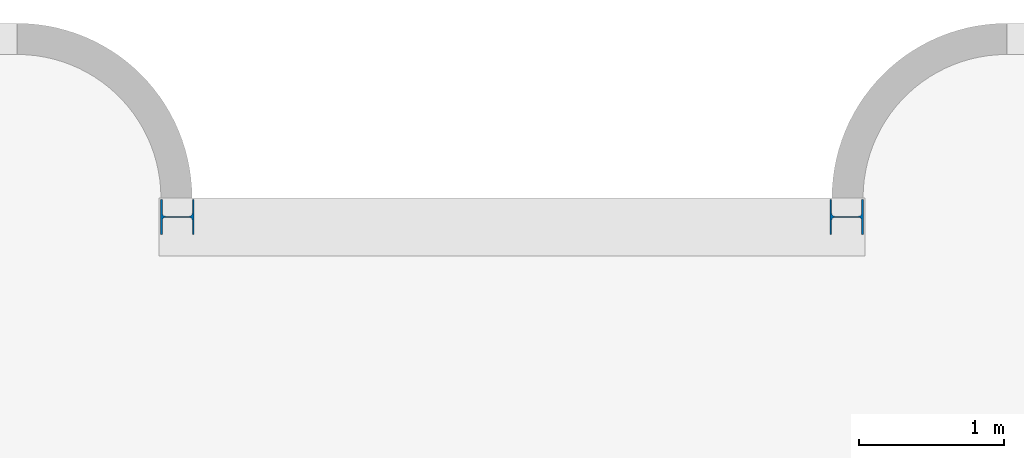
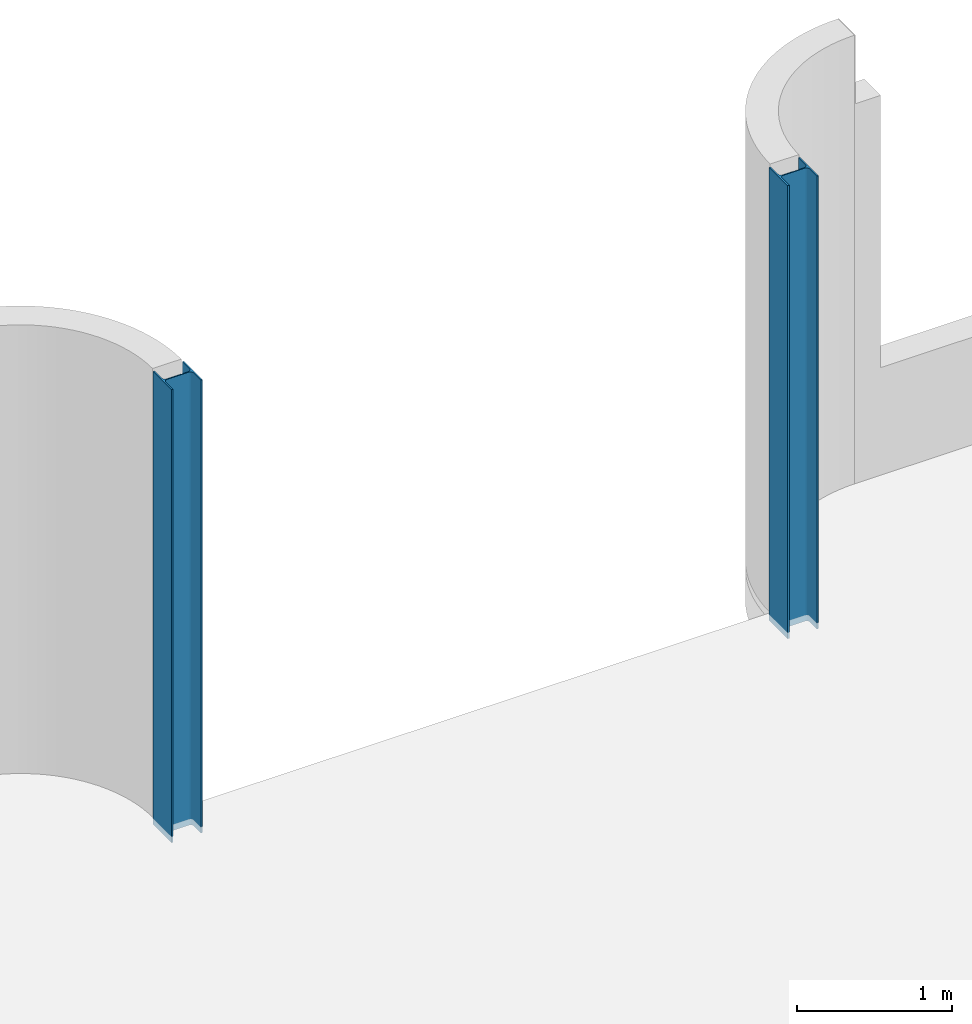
# One storey, part 11 of 25: 2 columns.
"""IFC2X3 building model written with IfcOpenShell, lengths in millimetres."""

import ifcopenshell
import ifcopenshell.guid

model = None  # the IFC model being written
_history = None  # IfcOwnerHistory: only IFC2X3 demands one
_inside = {}  # id of a spatial element -> (the spatial element, [elements in it])
_under = {}  # id of a project, library or spatial element -> (it, [spatial elements below it])
_declared = {}  # id of a project -> (the project, [libraries it declares])
_typed = {}  # id of a type object -> (the type object, [elements of that type])
_made_of = {}  # id of a material, layer set ... -> (it, [elements and type objects made of it])


def new_model(schema):
    """Start an empty IFC model of exactly this schema.

    Asked for "IFC4X3", IfcOpenShell would pick the latest addendum, in which some entities
    have other attributes; the version numbers below select the first issue.
    IFC2X3 requires an IfcOwnerHistory on every rooted entity: one is made here for all.
    """
    global model, _history
    if schema == "IFC4X3":
        model = ifcopenshell.file(schema_version=(4, 3, 0, 0))
    else:
        model = ifcopenshell.file(schema=schema)
    _inside.clear()
    _under.clear()
    _declared.clear()
    _typed.clear()
    _made_of.clear()
    _history = None
    if model.schema == "IFC2X3":
        org = make("IfcOrganization", Name="unknown")
        user = make(
            "IfcPersonAndOrganization",
            ThePerson=make("IfcPerson", FamilyName="unknown"),
            TheOrganization=org,
        )
        app = make(
            "IfcApplication",
            ApplicationDeveloper=org,
            Version="unknown",
            ApplicationFullName="unknown",
            ApplicationIdentifier="unknown",
        )
        _history = make(
            "IfcOwnerHistory",
            OwningUser=user,
            OwningApplication=app,
            ChangeAction="ADDED",
            CreationDate=0,
        )
    return model


def make(cls, **values):
    """One entity of the class cls with the attributes given. An attribute that is None is left unset."""
    return model.create_entity(
        cls, **{name: value for name, value in values.items() if value is not None}
    )


def entity(cls, *values):
    """Any entity or typed value of the class cls, its attributes in the order of the schema. None: left unset."""
    e = model.create_entity(cls)
    for i, value in enumerate(values):
        if value is not None:
            e[i] = value
    return e


def rooted(cls, **values):
    """An entity with a GlobalId (a new one), such as an element, a storey or a relation."""
    return make(cls, GlobalId=ifcopenshell.guid.new(), OwnerHistory=_history, **values)


def si_unit(unit_type, name, prefix=None):
    """IfcSIUnit, for example si_unit("LENGTHUNIT", "METRE", prefix="MILLI")."""
    return make("IfcSIUnit", UnitType=unit_type, Prefix=prefix, Name=name)


def converted_unit(unit_type, name, factor, base, dimensions=None, offset=None):
    """IfcConversionBasedUnit, such as the inch: factor (a typed value) times the base unit."""
    return make(
        "IfcConversionBasedUnit"
        if offset is None
        else "IfcConversionBasedUnitWithOffset",
        ConversionOffset=offset,
        Dimensions=None
        if dimensions is None
        else entity("IfcDimensionalExponents", *dimensions),
        UnitType=unit_type,
        Name=name,
        ConversionFactor=make(
            "IfcMeasureWithUnit", ValueComponent=factor, UnitComponent=base
        ),
    )


def derived_unit(unit_type, elements):
    """IfcDerivedUnit: a product of units, each with its exponent."""
    return make(
        "IfcDerivedUnit",
        Elements=[
            make("IfcDerivedUnitElement", Unit=unit, Exponent=power)
            for unit, power in elements
        ],
        UnitType=unit_type,
    )


def assignment(units):
    """IfcUnitAssignment: the units of a project."""
    return None if units is None else make("IfcUnitAssignment", Units=units)


def point(xyz):
    """IfcCartesianPoint."""
    return None if xyz is None else make("IfcCartesianPoint", Coordinates=xyz)


def direction(xyz):
    """IfcDirection."""
    return None if xyz is None else make("IfcDirection", DirectionRatios=xyz)


def frame(location, z_axis=None, x_axis=None):
    """IfcAxis2Placement3D, a coordinate frame: its origin and axes. An axis left out is left unset."""
    return make(
        "IfcAxis2Placement3D",
        Location=point(location),
        Axis=direction(z_axis),
        RefDirection=direction(x_axis),
    )


def frame_2d(location, x_axis=None):
    """IfcAxis2Placement2D, a coordinate frame in the plane: its origin and x axis."""
    return make(
        "IfcAxis2Placement2D", Location=point(location), RefDirection=direction(x_axis)
    )


def origin():
    """The frame at (0, 0, 0) with its axes left unset."""
    return frame((0.0, 0.0, 0.0))


def place(relative_to, where):
    """IfcLocalPlacement: puts the frame where relative to a parent placement (None: the world)."""
    return make(
        "IfcLocalPlacement", PlacementRelTo=relative_to, RelativePlacement=where
    )


def context(
    kind, dimensions, precision=None, world=None, true_north=None, identifier=None
):
    """IfcGeometricRepresentationContext, for example the 3D "Model" context."""
    return make(
        "IfcGeometricRepresentationContext",
        ContextIdentifier=identifier,
        ContextType=kind,
        CoordinateSpaceDimension=dimensions,
        Precision=precision,
        WorldCoordinateSystem=world,
        TrueNorth=true_north,
    )


def subcontext(parent, identifier, kind, view, scale=None):
    """IfcGeometricRepresentationSubContext, for example "Body" below "Model"."""
    return make(
        "IfcGeometricRepresentationSubContext",
        ContextIdentifier=identifier,
        ContextType=kind,
        ParentContext=parent,
        TargetScale=scale,
        TargetView=view,
    )


def project(units=None, contexts=None):
    """IfcProject with its units and contexts."""
    return rooted(
        "IfcProject",
        Name="project",
        RepresentationContexts=contexts,
        UnitsInContext=assignment(units),
    )


def spatial(cls, under=None, at=None, **own):
    """A site, building, storey or space (cls), placed at a placement, below another one or the project."""
    s = rooted(cls, ObjectPlacement=at, **own)
    if under is not None:
        _under.setdefault(under.id(), (under, []))[1].append(s)
    return s


def profile(cls, at=None, kind="AREA", **sizes):
    """A parametric profile (cls). Its sizes go by their IFC names, for example OverallWidth=200.0."""
    return make(cls, ProfileType=kind, Position=at, **sizes)


def i_section(**sizes):
    """IfcIShapeProfileDef."""
    return profile("IfcIShapeProfileDef", **sizes)


def extrude(swept, where, along, depth):
    """IfcExtrudedAreaSolid: the profile swept, set in the frame where, extruded along a direction by depth."""
    return make(
        "IfcExtrudedAreaSolid",
        SweptArea=swept,
        Position=where,
        ExtrudedDirection=direction(along),
        Depth=depth,
    )


def shape(context_of_items, identifier, shape_type, items):
    """IfcShapeRepresentation: the items that make up one representation, for example the "Body"."""
    return make(
        "IfcShapeRepresentation",
        ContextOfItems=context_of_items,
        RepresentationIdentifier=identifier,
        RepresentationType=shape_type,
        Items=items,
    )


def source(mapping_origin, context_of_items, identifier, shape_type, items):
    """IfcRepresentationMap: a shape defined once, which mapped items show again and again."""
    return make(
        "IfcRepresentationMap",
        MappingOrigin=mapping_origin,
        MappedRepresentation=shape(context_of_items, identifier, shape_type, items),
    )


def transform(
    local_origin,
    x_axis=None,
    y_axis=None,
    z_axis=None,
    scale=None,
    scale2=None,
    scale3=None,
    uniform=True,
):
    """IfcCartesianTransformationOperator3D, or its non-uniform kind. x_axis, y_axis, z_axis: its Axis1, 2, 3."""
    if uniform:
        return make(
            "IfcCartesianTransformationOperator3D",
            Axis1=direction(x_axis),
            Axis2=direction(y_axis),
            LocalOrigin=point(local_origin),
            Scale=scale,
            Axis3=direction(z_axis),
        )
    return make(
        "IfcCartesianTransformationOperator3DnonUniform",
        Axis1=direction(x_axis),
        Axis2=direction(y_axis),
        LocalOrigin=point(local_origin),
        Scale=scale,
        Axis3=direction(z_axis),
        Scale2=scale2,
        Scale3=scale3,
    )


def mapped(mapping_source, mapping_target):
    """IfcMappedItem: shows the shape of a source again, moved by a transform."""
    return make(
        "IfcMappedItem", MappingSource=mapping_source, MappingTarget=mapping_target
    )


def material(Name=None, Category=None):
    """IfcMaterial."""
    return make("IfcMaterial", Name=Name, Category=Category)


def made_of(thing, what):
    """Note that an element or type object is made of a material, layer set ...; save() writes the relation."""
    if what is not None:
        _made_of.setdefault(what.id(), (what, []))[1].append(thing)
    return thing


def type_object(cls, material=None, **own):
    """A type object (cls), such as IfcWallType, which elements share."""
    return made_of(rooted(cls, **own), material)


def type_shapes(of_type, sources):
    """Give a type object the sources (RepresentationMaps) that its elements show as mapped items."""
    of_type.RepresentationMaps = sources


def element(
    cls,
    number,
    at=None,
    inside=None,
    cuts=None,
    type_object=None,
    material=None,
    context=None,
    identifier="Body",
    shape_type=None,
    held_by="IfcProductDefinitionShape",
    body=None,
    shapes=None,
    **own,
):
    """One element of the class cls, such as IfcWall. Its Tag is "e" and its number.

    at: its placement. inside: the storey or other place that contains it. cuts: it is an
    opening in that element (IfcRelVoidsElement). A single representation is given by context,
    identifier, shape_type and body (its items); several are given by shapes. held_by: the class
    of the entity that holds the representations. save() writes the other relations.
    """
    e = rooted(cls, Tag="e%d" % number, ObjectPlacement=at, **own)
    if body is not None:
        shapes = [shape(context, identifier, shape_type, body)]
    if shapes is not None:
        e.Representation = make(held_by, Representations=shapes)
    if inside is not None:
        _inside.setdefault(inside.id(), (inside, []))[1].append(e)
    if cuts is not None:
        rooted(
            "IfcRelVoidsElement", RelatingBuildingElement=cuts, RelatedOpeningElement=e
        )
    if type_object is not None:
        _typed.setdefault(type_object.id(), (type_object, []))[1].append(e)
    return made_of(e, material)


def aggregate(whole, parts):
    """IfcRelAggregates: a whole, such as a stair, and the parts it consists of."""
    return rooted("IfcRelAggregates", RelatingObject=whole, RelatedObjects=parts)


def save(model, path):
    """Write the relations noted so far, then the file.

    IfcRelAggregates (storeys below a building ...), IfcRelContainedInSpatialStructure (elements
    in a storey), IfcRelDefinesByType, IfcRelAssociatesMaterial and IfcRelDeclares: one each for
    every whole, place, type object, material and project.
    """
    for whole, parts in _under.values():
        aggregate(whole, parts)
    for where, things in _inside.values():
        rooted(
            "IfcRelContainedInSpatialStructure",
            RelatedElements=things,
            RelatingStructure=where,
        )
    for kind, things in _typed.values():
        rooted("IfcRelDefinesByType", RelatedObjects=things, RelatingType=kind)
    for what, things in _made_of.values():
        rooted("IfcRelAssociatesMaterial", RelatedObjects=things, RelatingMaterial=what)
    for by, libraries in _declared.values():
        rooted("IfcRelDeclares", RelatingContext=by, RelatedDefinitions=libraries)
    model.write(path)


model = new_model("IFC2X3")

# Units and contexts
model_context = context("Model", 3, precision=0.01, world=origin(), true_north=direction((6.123031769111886e-17, 1.0)))
body_context = subcontext(model_context, "Body", "Model", "MODEL_VIEW")
ifc_project = project(units=[si_unit("LENGTHUNIT", "METRE", prefix="MILLI"), si_unit("AREAUNIT", "SQUARE_METRE"), si_unit("VOLUMEUNIT", "CUBIC_METRE"), derived_unit("MASSDENSITYUNIT", [(si_unit("MASSUNIT", "GRAM", prefix="KILO"), 1), (si_unit("LENGTHUNIT", "METRE"), -3)]), si_unit("MASSUNIT", "GRAM", prefix="KILO"), converted_unit("PLANEANGLEUNIT", "DEGREE", entity("IfcPlaneAngleMeasure", 0.017453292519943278), si_unit("PLANEANGLEUNIT", "RADIAN"), dimensions=[0, 0, 0, 0, 0, 0, 0])], contexts=[model_context])

# Site, building, storey
site_placement = place(None, origin())
site = spatial("IfcSite", under=ifc_project, at=site_placement, Name="Default", CompositionType="ELEMENT")
building_placement = place(site_placement, origin())
building = spatial("IfcBuilding", under=site, at=building_placement, Name="AT constructie", CompositionType="ELEMENT")
storey_placement = place(building_placement, frame((0.0, 0.0, 3864.0)))
storey = spatial("IfcBuildingStorey", under=building, at=storey_placement, Name="01 eerste verdieping", CompositionType="ELEMENT", Elevation=3864.0)

# Columns
ifc_material = material(Name="h2_staal_S355")
column_type_1 = type_object("IfcColumnType", Name="kolom_gen_HEA240", PredefinedType="COLUMN", material=ifc_material)
shared_shape_1 = source(origin(), body_context, "Body", "SweptSolid", [
    extrude(i_section(OverallWidth=239.9999999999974, OverallDepth=229.99999999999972, WebThickness=7.500000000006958, FlangeThickness=11.999999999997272, FilletRadius=21.0, at=frame_2d((-8.661515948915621e-12, -8.661515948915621e-12), x_axis=(1.0, 0.0))), frame((78348.37463291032, 41541.04350852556, 3764.0), z_axis=(0.0, 0.0, 1.0), x_axis=(0.0, 1.0, 0.0)), (0.0, 0.0, 1.0), 3578.999999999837),
])
type_shapes(column_type_1, [shared_shape_1])
column_1_placement = place(storey_placement, frame((0.0, 0.0, -3864.0)))
element("IfcColumn", 1, at=column_1_placement, inside=storey, type_object=column_type_1, material=ifc_material, Name="NLRS_28_SC_TLB_kolom HEA_gen_AT:kolom_gen_HEA240", ObjectType="NLRS_28_SC_TLB_kolom HEA_gen_AT:kolom_gen_HEA240", context=body_context, shape_type="MappedRepresentation", body=[
    mapped(shared_shape_1, transform((0.0, 0.0, 0.0), scale=1.0)),
])
column_type_2 = type_object("IfcColumnType", Name="kolom_gen_HEA240", PredefinedType="COLUMN", material=ifc_material)
shared_shape_2 = source(origin(), body_context, "Body", "SweptSolid", [
    extrude(i_section(OverallWidth=239.9999999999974, OverallDepth=229.9999999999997, WebThickness=7.500000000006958, FlangeThickness=11.999999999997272, FilletRadius=21.0, at=frame_2d((8.661515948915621e-12, 0.0), x_axis=(1.0, 0.0))), frame((73745.37463111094, 41541.04350852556, 3764.0), z_axis=(0.0, 0.0, 1.0), x_axis=(0.0, 1.0, 0.0)), (0.0, 0.0, 1.0), 3578.999999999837),
])
type_shapes(column_type_2, [shared_shape_2])
column_2_placement = place(storey_placement, frame((0.0, 0.0, -3864.0)))
element("IfcColumn", 2, at=column_2_placement, inside=storey, type_object=column_type_2, material=ifc_material, Name="NLRS_28_SC_TLB_kolom HEA_gen_AT:kolom_gen_HEA240", ObjectType="NLRS_28_SC_TLB_kolom HEA_gen_AT:kolom_gen_HEA240", context=body_context, shape_type="MappedRepresentation", body=[
    mapped(shared_shape_2, transform((0.0, 0.0, 0.0), scale=1.0)),
])

save(model, "model.ifc")
